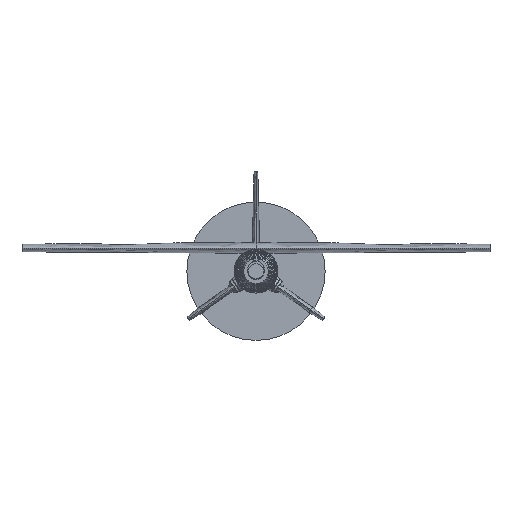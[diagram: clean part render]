
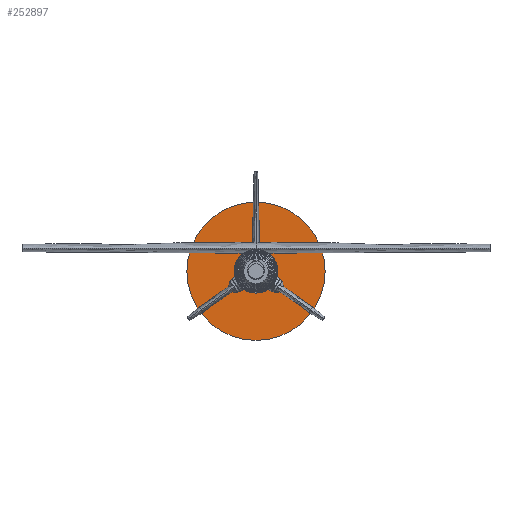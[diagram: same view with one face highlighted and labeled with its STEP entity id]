
A CAD part, left-side view. The second image highlights one B-rep face of the part: STEP entity #252897.
In plain terms, the highlighted planar face has unit normal (-1, 0, 0).
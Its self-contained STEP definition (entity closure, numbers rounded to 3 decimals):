
#252819 = CYLINDRICAL_SURFACE('',#252820,63.5);
#252820 = AXIS2_PLACEMENT_3D('',#252821,#252822,#252823);
#252821 = CARTESIAN_POINT('',(467.55,0.,0.));
#252822 = DIRECTION('',(1.,0.,0.));
#252823 = DIRECTION('',(-0.,0.,1.));
#252844 = VERTEX_POINT('',#252845);
#252845 = CARTESIAN_POINT('',(467.55,0.,63.5));
#252866 = EDGE_CURVE('',#252844,#252844,#252867,.T.);
#252867 = SURFACE_CURVE('',#252868,(#252873,#252880),.PCURVE_S1.);
#252868 = CIRCLE('',#252869,63.5);
#252869 = AXIS2_PLACEMENT_3D('',#252870,#252871,#252872);
#252870 = CARTESIAN_POINT('',(467.55,0.,0.));
#252871 = DIRECTION('',(1.,0.,0.));
#252872 = DIRECTION('',(-0.,0.,1.));
#252873 = PCURVE('',#252819,#252874);
#252874 = DEFINITIONAL_REPRESENTATION('',(#252875),#252879);
#252875 = LINE('',#252876,#252877);
#252876 = CARTESIAN_POINT('',(0.,0.));
#252877 = VECTOR('',#252878,1.);
#252878 = DIRECTION('',(1.,0.));
#252879 = ( GEOMETRIC_REPRESENTATION_CONTEXT(2) 
PARAMETRIC_REPRESENTATION_CONTEXT() REPRESENTATION_CONTEXT('2D SPACE',''
  ) );
#252880 = PCURVE('',#252881,#252886);
#252881 = PLANE('',#252882);
#252882 = AXIS2_PLACEMENT_3D('',#252883,#252884,#252885);
#252883 = CARTESIAN_POINT('',(467.55,0.,0.));
#252884 = DIRECTION('',(1.,0.,0.));
#252885 = DIRECTION('',(-0.,0.,1.));
#252886 = DEFINITIONAL_REPRESENTATION('',(#252887),#252891);
#252887 = CIRCLE('',#252888,63.5);
#252888 = AXIS2_PLACEMENT_2D('',#252889,#252890);
#252889 = CARTESIAN_POINT('',(0.,0.));
#252890 = DIRECTION('',(1.,0.));
#252891 = ( GEOMETRIC_REPRESENTATION_CONTEXT(2) 
PARAMETRIC_REPRESENTATION_CONTEXT() REPRESENTATION_CONTEXT('2D SPACE',''
  ) );
#252897 = ADVANCED_FACE('',(#252898),#252881,.F.);
#252898 = FACE_BOUND('',#252899,.T.);
#252899 = EDGE_LOOP('',(#252900));
#252900 = ORIENTED_EDGE('',*,*,#252866,.F.);
